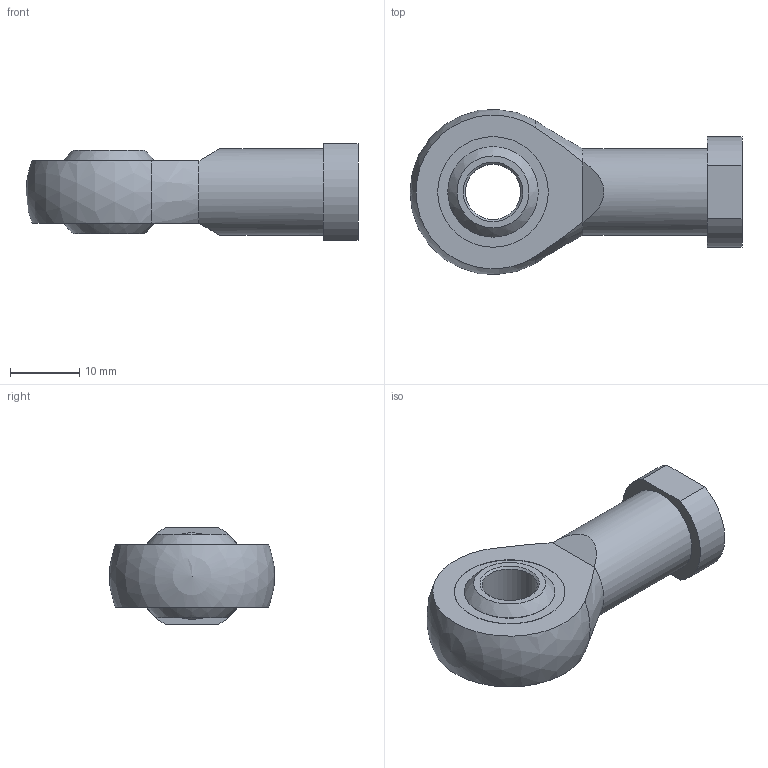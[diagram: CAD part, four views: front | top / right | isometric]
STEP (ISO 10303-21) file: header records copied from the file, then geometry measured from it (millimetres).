
FILE_DESCRIPTION(/* description */ (''),/* implementation_level */ '2;1');
FILE_NAME(/* name */ 'LAOAA-M8.step',/* time_stamp */ '2019-08-08T12:24:15+02:00',/* author */ ('octogon GmbH'),/* organization */ ('octogon GmbH'),/* preprocessor_version */ 'ST-DEVELOPER v15.6',/* originating_system */ 'Autodesk Inventor LT ',/* authorisation */ '');
FILE_SCHEMA (('AUTOMOTIVE_DESIGN { 1 0 10303 214 3 1 1 }'));
Length unit declared in the file: millimetre
Products named in the file (1): LAOAA-M8 rod end, stainless steel, female thread M8
Bounding box: 48 x 23.77 x 14 mm (x, y, z)
Volume: 6277.7 mm3; surface area: 3334.5 mm2
Topology: 1 solids, 1 shells, 31 faces, 74 edges, 49 vertices
Faces by surface type: plane 12, cylinder 10, cone 6, bspline 2, sphere 1
Full cylindrical faces by diameter (mm): 6.647 x2, 8 x1, 12.5 x1, 13.084 x2, 16 x2
Entity records: 868 total; most frequent: CARTESIAN_POINT 184, DIRECTION 138, ORIENTED_EDGE 100, AXIS2_PLACEMENT_3D 64, EDGE_LOOP 50, EDGE_CURVE 50, VERTEX_POINT 38, CIRCLE 32
